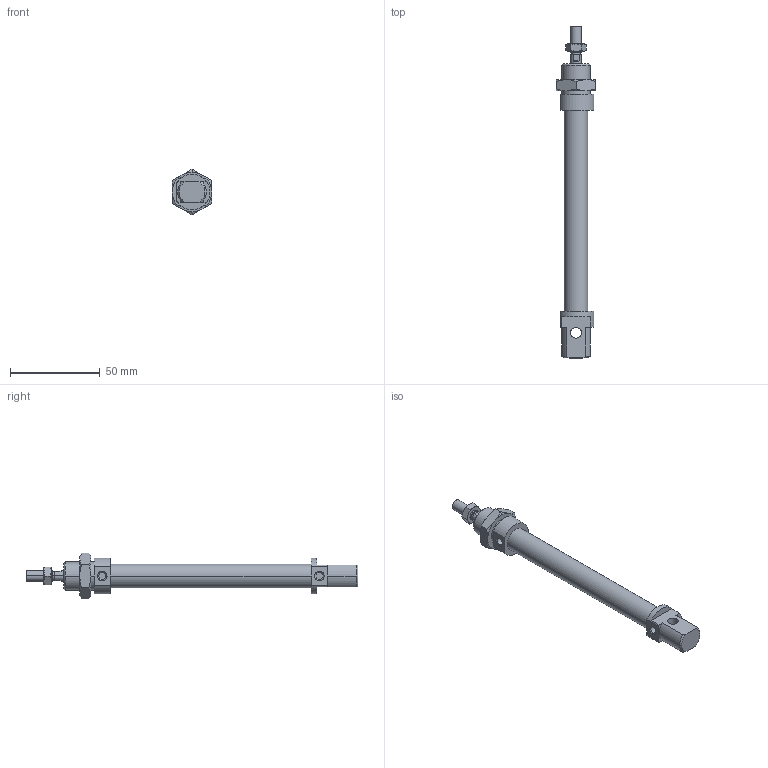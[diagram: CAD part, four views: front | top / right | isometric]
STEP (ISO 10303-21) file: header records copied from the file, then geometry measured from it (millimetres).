
FILE_DESCRIPTION((''),'2;1');
FILE_NAME('I:\DOC-EDP\Lib-3d\1200\CILINDRI\1280\1280_12_0080.stp','2003-04-07T14:49:38',('maffial1'),(''),'Autodesk Inventor (R) 6.0','Autodesk Inventor (R) 6.0','');
FILE_SCHEMA(('AUTOMOTIVE_DESIGN { 1 0 10303 214 1 1 1 1 }'));
Length unit declared in the file: millimetre
Products named in the file (5): 1280_12_0080; S1280_12_80; 1200_12_05; 1200_12_06; C1280_12_80
Assembly tree (4 placements, depth 2):
  1280_12_0080
    S1280_12_80
    1200_12_05
    1200_12_06
    C1280_12_80
Bounding box: 22 x 185 x 25.4 mm (x, y, z)
Volume: 28379.2 mm3; surface area: 14538.7 mm2
Topology: 4 solids, 4 shells, 121 faces, 268 edges, 162 vertices
Faces by surface type: cone 40, plane 39, cylinder 22, bspline 20
Entity records: 3653 total; most frequent: CARTESIAN_POINT 976, DIRECTION 556, ORIENTED_EDGE 536, EDGE_CURVE 268, AXIS2_PLACEMENT_3D 230, VERTEX_POINT 162, EDGE_LOOP 134, FACE_OUTER_BOUND 121
